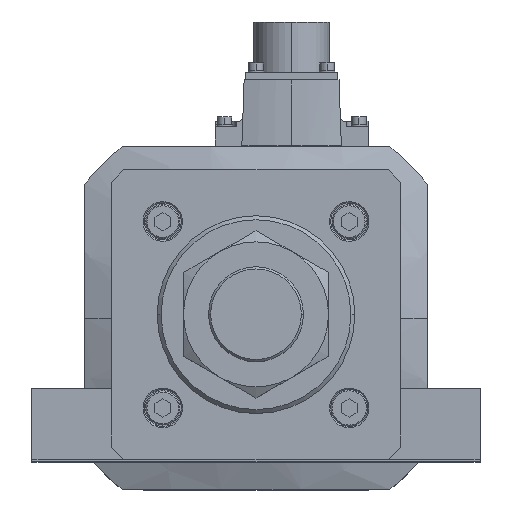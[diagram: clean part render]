
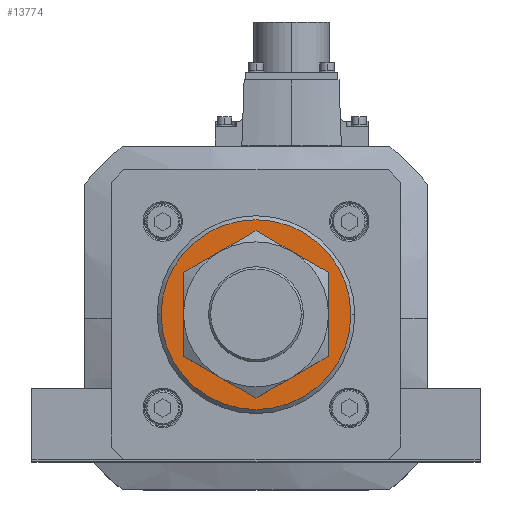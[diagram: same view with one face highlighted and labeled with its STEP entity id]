
A CAD part, top view. The second image highlights one B-rep face of the part: STEP entity #13774.
In plain terms, the highlighted planar face has unit normal (0, 0, 1).
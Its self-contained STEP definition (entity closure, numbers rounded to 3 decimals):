
#1514 = ORIENTED_EDGE ( 'NONE', *, *, #22021, .T. ) ;
#2709 = EDGE_CURVE ( 'NONE', #35673, #12118, #4732, .T. ) ;
#4732 = CIRCLE ( 'NONE', #23816, 36. ) ;
#5650 = CARTESIAN_POINT ( 'NONE',  ( 0., 0., 496. ) ) ;
#5878 = AXIS2_PLACEMENT_3D ( 'NONE', #27679, #21567, #33335 ) ;
#6117 = AXIS2_PLACEMENT_3D ( 'NONE', #35348, #29467, #12127 ) ;
#7286 = CIRCLE ( 'NONE', #11185, 23. ) ;
#7335 = PLANE ( 'NONE',  #5878 ) ;
#8340 = DIRECTION ( 'NONE',  ( 0., 0., -1. ) ) ;
#9233 = CARTESIAN_POINT ( 'NONE',  ( 23., 0., 496. ) ) ;
#11185 = AXIS2_PLACEMENT_3D ( 'NONE', #5650, #8340, #19896 ) ;
#11446 = EDGE_LOOP ( 'NONE', ( #37417, #26783 ) ) ;
#12118 = VERTEX_POINT ( 'NONE', #30601 ) ;
#12127 = DIRECTION ( 'NONE',  ( 1., 0., 0. ) ) ;
#13774 = ADVANCED_FACE ( 'NONE', ( #30291, #14771 ), #7335, .T. ) ;
#13794 = CIRCLE ( 'NONE', #27823, 23. ) ;
#14377 = EDGE_CURVE ( 'NONE', #32393, #27443, #13794, .T. ) ;
#14771 = FACE_OUTER_BOUND ( 'NONE', #11446, .T. ) ;
#15828 = EDGE_CURVE ( 'NONE', #12118, #35673, #26911, .T. ) ;
#16326 = DIRECTION ( 'NONE',  ( 0., 0., -1. ) ) ;
#16578 = EDGE_LOOP ( 'NONE', ( #1514, #18687 ) ) ;
#17998 = DIRECTION ( 'NONE',  ( 0., 0., 1. ) ) ;
#18375 = CARTESIAN_POINT ( 'NONE',  ( 0., 0., 496. ) ) ;
#18687 = ORIENTED_EDGE ( 'NONE', *, *, #14377, .T. ) ;
#19896 = DIRECTION ( 'NONE',  ( 1., 0., 0. ) ) ;
#21567 = DIRECTION ( 'NONE',  ( 0., 0., 1. ) ) ;
#22021 = EDGE_CURVE ( 'NONE', #27443, #32393, #7286, .T. ) ;
#23816 = AXIS2_PLACEMENT_3D ( 'NONE', #18375, #17998, #26662 ) ;
#24203 = CARTESIAN_POINT ( 'NONE',  ( -36., 0., 496. ) ) ;
#26662 = DIRECTION ( 'NONE',  ( 1., 0., 0. ) ) ;
#26783 = ORIENTED_EDGE ( 'NONE', *, *, #15828, .T. ) ;
#26911 = CIRCLE ( 'NONE', #6117, 36. ) ;
#27443 = VERTEX_POINT ( 'NONE', #9233 ) ;
#27679 = CARTESIAN_POINT ( 'NONE',  ( 0., 0., 496. ) ) ;
#27823 = AXIS2_PLACEMENT_3D ( 'NONE', #32550, #16326, #36875 ) ;
#29440 = CARTESIAN_POINT ( 'NONE',  ( -23., 0., 496. ) ) ;
#29467 = DIRECTION ( 'NONE',  ( 0., 0., 1. ) ) ;
#30291 = FACE_BOUND ( 'NONE', #16578, .T. ) ;
#30601 = CARTESIAN_POINT ( 'NONE',  ( 36., 0., 496. ) ) ;
#32393 = VERTEX_POINT ( 'NONE', #29440 ) ;
#32550 = CARTESIAN_POINT ( 'NONE',  ( 0., 0., 496. ) ) ;
#33335 = DIRECTION ( 'NONE',  ( 1., 0., 0. ) ) ;
#35348 = CARTESIAN_POINT ( 'NONE',  ( 0., 0., 496. ) ) ;
#35673 = VERTEX_POINT ( 'NONE', #24203 ) ;
#36875 = DIRECTION ( 'NONE',  ( 1., 0., 0. ) ) ;
#37417 = ORIENTED_EDGE ( 'NONE', *, *, #2709, .T. ) ;
